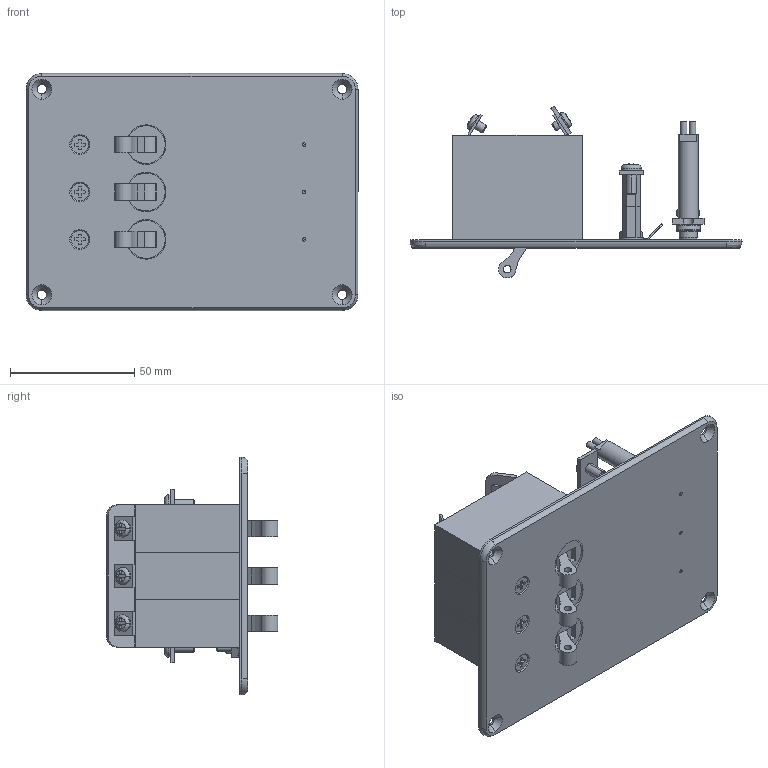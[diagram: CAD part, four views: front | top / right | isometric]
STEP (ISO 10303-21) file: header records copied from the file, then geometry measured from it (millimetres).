
FILE_DESCRIPTION((''),'2;1');
FILE_NAME('14356-2n1_3d.stp','2011-05-05T11:13:27',(''),(''),'Mechanical Desktop 2008','Mechanical Desktop 2008',', , ');
FILE_SCHEMA(('CONFIG_CONTROL_DESIGN'));
Length unit declared in the file: inch
Products named in the file (39): 14356-2N1_3D; 11840-0C1_3D; 11840-0C1_3DA; 578-2800-0_3DA; 578-2800-0_3D; 568-0101-2_3DA; 568-0101-2_3D; 568-0151-2_3DA; 568-0151-2_3D; 568-0051-2_3DA; 568-0051-2_3D; 754-0604-0_3D; 754-0604-0_3DA; 740-0601-2_3DA; 740-0601-2_3D; 754-0608-1_3D; 754-0608-1_3DA; 754-0608-2_3DA; 754-0608-2_3D; 722-0605-5_3DA; 722-0605-5_3D; 12290-3B1_3DA; 12290-3B1_3D; 13592-1A1_3D; 13592-1A1_3DA; 12150-3B1_3D; 12150-3B1_3DA; 718-0603-2_3D; 718-0603-2_3DA; 742-0601-2_3D; 742-0601-2_3DA; 735-0632-2_3D; 735-0632-2_3DA; 718-0605-5_3DA; 718-0605-5_3D; 718-0806-2_3DA; 718-0806-2_3D; 624-1416-6_3D; 624-1416-6_3DA
Assembly tree (56 placements, depth 3):
  14356-2N1_3D
    11840-0C1_3D
      11840-0C1_3DA
    578-2800-0_3DA  x3
      578-2800-0_3D
    568-0101-2_3DA
      568-0101-2_3D
    568-0151-2_3DA
      568-0151-2_3D
    568-0051-2_3DA
      568-0051-2_3D
    754-0604-0_3D  x2
      754-0604-0_3DA
    740-0601-2_3DA  x2
      740-0601-2_3D
    754-0608-1_3D  x2
      754-0608-1_3DA
    754-0608-2_3DA  x2
      754-0608-2_3D
    722-0605-5_3DA  x3
      722-0605-5_3D
    12290-3B1_3DA
      12290-3B1_3D
    13592-1A1_3D
      13592-1A1_3DA
    12150-3B1_3D
      12150-3B1_3DA
    718-0603-2_3D  x6
      718-0603-2_3DA
    742-0601-2_3D  x2
      742-0601-2_3DA
    735-0632-2_3D  x3
      735-0632-2_3DA
    718-0605-5_3DA  x2
      718-0605-5_3D
    718-0806-2_3DA  x2
      718-0806-2_3D
    624-1416-6_3D
      624-1416-6_3DA
Bounding box: 133.35 x 69 x 95.25 mm (x, y, z)
Volume: 178588.8 mm3; surface area: 68408.5 mm2
Topology: 37 solids, 41 shells, 986 faces, 2398 edges, 1534 vertices
Faces by surface type: plane 411, cylinder 382, cone 126, torus 32, sphere 26, bspline 9
Entity records: 18745 total; most frequent: CARTESIAN_POINT 3554, DIRECTION 3285, ORIENTED_EDGE 2886, EDGE_CURVE 1443, AXIS2_PLACEMENT_3D 1256, VERTEX_POINT 933, VECTOR 773, LINE 773
